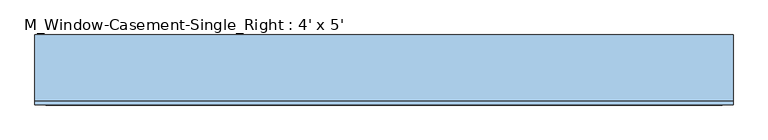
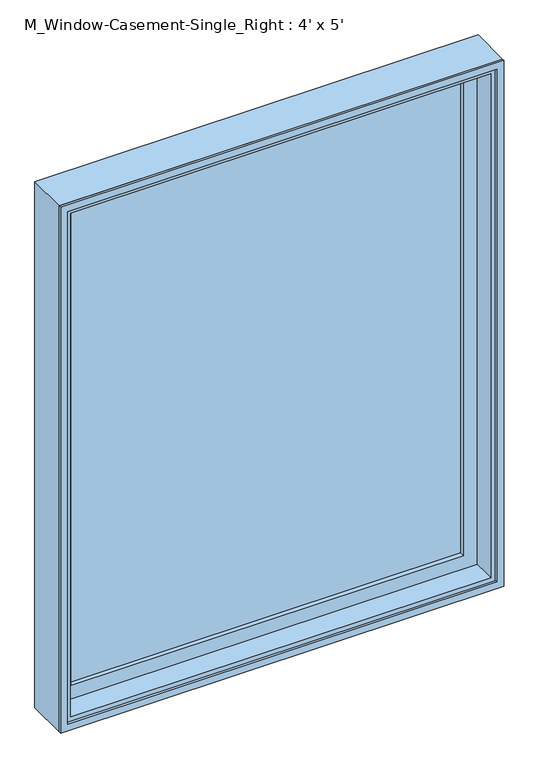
"""IFC4 building model written with IfcOpenShell, lengths in millimetres: window geometry, M_Window-Casement-Single_Right : 4' x 5'."""

from ifc_helpers import new_model, si_unit, frame, origin, place, context, project, spatial, polyline, outline, extrude, faceted_brep, source, transform, mapped, element, save


def m_window_casement_single_right_4_x_5_58560944(model_context):
    return source(origin(), model_context, "Body", "SolidModel", [
        extrude(outline(polyline([(532.25, 50.8), (532.25, 44.45), (-532.25, 44.45), (-532.25, 50.8), (532.25, 50.8)])), frame((0.0, 0.0, 969.85), z_axis=(0.0, 0.0, 1.0), x_axis=(1.0, 0.0, 0.0)), (0.0, 0.0, 1.0), 1369.3),
        extrude(outline(polyline([(-532.25, 31.75), (-532.25, 38.1), (532.25, 38.1), (532.25, 31.75), (-532.25, 31.75)])), frame((0.0, 0.0, 969.85), z_axis=(0.0, 0.0, 1.0), x_axis=(1.0, 0.0, 0.0)), (0.0, 0.0, 1.0), 1369.3),
        extrude(outline(polyline([(2396.3, -589.4), (912.7, -589.4), (912.7, 589.4), (2396.3, 589.4), (2396.3, -589.4)]), holes=[polyline([(2339.15, 532.25), (969.85, 532.25), (969.85, -532.25), (2339.15, -532.25), (2339.15, 532.25)])]), frame((0.0, 19.05, 0.0), z_axis=(0.0, 1.0, 0.0), x_axis=(0.0, 0.0, 1.0)), (0.0, 0.0, 1.0), 44.45),
        extrude(outline(polyline([(2409.0, -602.1), (900.0, -602.1), (900.0, 602.1), (2409.0, 602.1), (2409.0, -602.1)]), holes=[polyline([(2389.95, 583.05), (919.05, 583.05), (919.05, -583.05), (2389.95, -583.05), (2389.95, 583.05)])]), frame((0.0, -50.8, 0.0), z_axis=(0.0, 1.0, 0.0), x_axis=(0.0, 0.0, 1.0)), (0.0, 0.0, 1.0), 6.35),
        faceted_brep([(570.35, 19.05, 2377.25), (570.35, -44.45, 2377.25), (-570.35, -44.45, 2377.25), (-570.35, 19.05, 2377.25), (589.4, 69.85, 2396.3), (589.4, 19.05, 2396.3), (-589.4, 19.05, 2396.3), (-589.4, 69.85, 2396.3), (602.1, -44.45, 2409.0), (602.1, 69.85, 2409.0), (-602.1, 69.85, 2409.0), (-602.1, -44.45, 2409.0), (-570.35, -44.45, 931.75), (-570.35, 19.05, 931.75), (-589.4, 19.05, 912.7), (-589.4, 69.85, 912.7), (-602.1, 69.85, 900.0), (-602.1, -44.45, 900.0), (570.35, -44.45, 931.75), (570.35, 19.05, 931.75), (589.4, 19.05, 912.7), (589.4, 69.85, 912.7), (602.1, 69.85, 900.0), (602.1, -44.45, 900.0)], [[[0, 1, 2, 3]], [[4, 5, 6, 7]], [[8, 9, 10, 11]], [[3, 2, 12, 13]], [[7, 6, 14, 15]], [[11, 10, 16, 17]], [[13, 12, 18, 19]], [[15, 14, 20, 21]], [[17, 16, 22, 23]], [[11, 17, 23, 8], [1, 18, 12, 2]], [[19, 18, 1, 0]], [[5, 20, 14, 6], [3, 13, 19, 0]], [[21, 20, 5, 4]], [[23, 22, 9, 8]], [[9, 22, 16, 10], [7, 15, 21, 4]]]),
    ])


if __name__ == "__main__":
    model = new_model("IFC4")
    model_context = context("Model", 3, world=origin())
    ifc_project = project(units=[si_unit("LENGTHUNIT", "METRE", prefix="MILLI")], contexts=[model_context])
    site = spatial("IfcSite", under=ifc_project)
    building = spatial("IfcBuilding", under=site)
    placement = place(None, origin())
    m_window_casement_single_right_4_x_5_shape = m_window_casement_single_right_4_x_5_58560944(model_context)
    element("IfcWindow", 1, ObjectType="M_Window-Casement-Single_Right : 4' x 5'", at=placement, inside=building, context=model_context, shape_type="MappedRepresentation", body=[
        mapped(m_window_casement_single_right_4_x_5_shape, transform((0.0, 0.0, 0.0), x_axis=(1.0, 0.0, 0.0), y_axis=(0.0, 1.0, 0.0), z_axis=(0.0, 0.0, 1.0))),
    ])
    save(model, "model.ifc")
